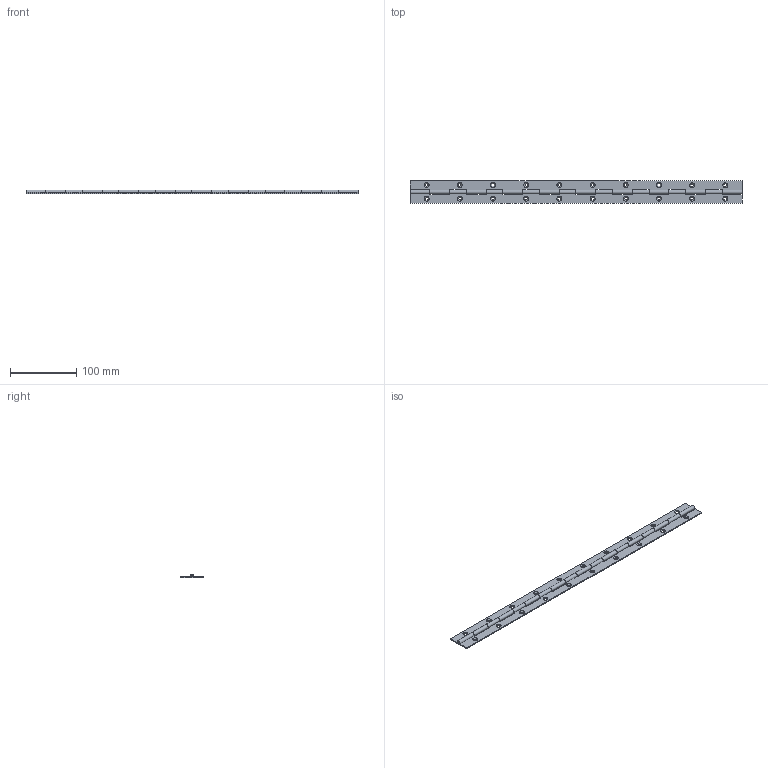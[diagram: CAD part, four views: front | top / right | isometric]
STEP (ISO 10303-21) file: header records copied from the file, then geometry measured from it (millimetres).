
FILE_DESCRIPTION (( 'STEP AP214' ), '1' );
FILE_NAME ('ST26.STEP', '2012-03-08T10:57:25', ( 'Techniczny' ), ( 'RST Roztocze' ), 'SwSTEP 2.0', 'SolidWorks 2010', '' );
FILE_SCHEMA (( 'AUTOMOTIVE_DESIGN' ));
Length unit declared in the file: millimetre
Products named in the file (3): ST26; 3.ST26.004; 3.ST26.004.02
Assembly tree (2 placements, depth 2):
  ST26
    3.ST26.004.02
    3.ST26.004
Bounding box: 500 x 34 x 6 mm (x, y, z)
Volume: 30352 mm3; surface area: 45143.6 mm2
Topology: 2 solids, 2 shells, 158 faces, 458 edges, 304 vertices
Faces by surface type: plane 82, cone 40, cylinder 36
Entity records: 5432 total; most frequent: DIRECTION 936, CARTESIAN_POINT 925, ORIENTED_EDGE 916, EDGE_CURVE 458, AXIS2_PLACEMENT_3D 315, VECTOR 306, LINE 306, VERTEX_POINT 304
